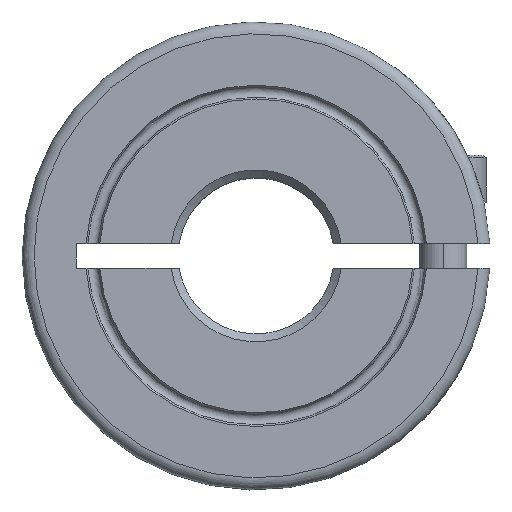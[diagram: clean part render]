
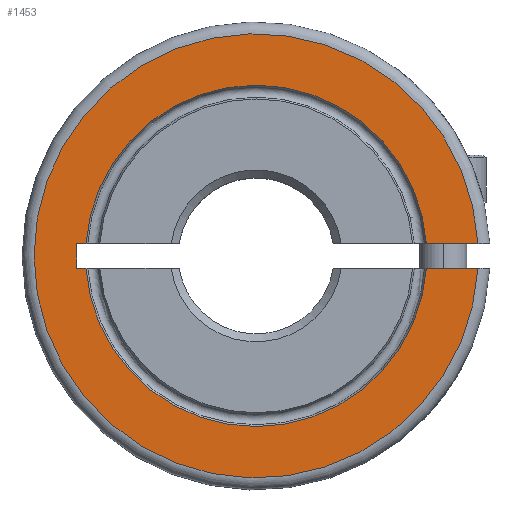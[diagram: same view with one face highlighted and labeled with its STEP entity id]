
A CAD part, top view. The second image highlights one B-rep face of the part: STEP entity #1453.
In plain terms, the highlighted planar face has unit normal (0, 0, 1).
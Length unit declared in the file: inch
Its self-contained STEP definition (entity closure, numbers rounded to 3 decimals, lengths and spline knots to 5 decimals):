
#23 = AXIS2_PLACEMENT_3D ( 'NONE', #544, #278, #284 ) ;
#65 = VERTEX_POINT ( 'NONE', #238 ) ;
#96 = ORIENTED_EDGE ( 'NONE', *, *, #736, .F. ) ;
#128 = DIRECTION ( 'NONE',  ( 0., -1., 0. ) ) ;
#181 = VECTOR ( 'NONE', #1747, 39.37008 ) ;
#207 = DIRECTION ( 'NONE',  ( 0., 0., 1. ) ) ;
#230 = EDGE_CURVE ( 'NONE', #1223, #744, #958, .T. ) ;
#231 = ORIENTED_EDGE ( 'NONE', *, *, #1219, .F. ) ;
#233 = VERTEX_POINT ( 'NONE', #1432 ) ;
#238 = CARTESIAN_POINT ( 'NONE',  ( -0.45276, -0.0315, 0.15748 ) ) ;
#245 = LINE ( 'NONE', #1574, #964 ) ;
#261 = PLANE ( 'NONE',  #391 ) ;
#268 = DIRECTION ( 'NONE',  ( 1., 0., 0. ) ) ;
#278 = DIRECTION ( 'NONE',  ( 0., 0., 1. ) ) ;
#284 = DIRECTION ( 'NONE',  ( 1., 0., 0. ) ) ;
#299 = DIRECTION ( 'NONE',  ( 0., 0., 1. ) ) ;
#311 = FACE_OUTER_BOUND ( 'NONE', #1176, .T. ) ;
#351 = CARTESIAN_POINT ( 'NONE',  ( 0.55967, 0.0315, 0.15748 ) ) ;
#363 = AXIS2_PLACEMENT_3D ( 'NONE', #549, #696, #268 ) ;
#391 = AXIS2_PLACEMENT_3D ( 'NONE', #729, #299, #1015 ) ;
#395 = DIRECTION ( 'NONE',  ( 1., 0., 0. ) ) ;
#399 = ORIENTED_EDGE ( 'NONE', *, *, #230, .T. ) ;
#437 = CARTESIAN_POINT ( 'NONE',  ( 0.59055, 0.0315, 0.15748 ) ) ;
#447 = ORIENTED_EDGE ( 'NONE', *, *, #994, .F. ) ;
#469 = CARTESIAN_POINT ( 'NONE',  ( -0.45276, 0.0315, 0.15748 ) ) ;
#544 = CARTESIAN_POINT ( 'NONE',  ( 0., 0., 0.15748 ) ) ;
#549 = CARTESIAN_POINT ( 'NONE',  ( 0., 0., 0.15748 ) ) ;
#601 = VECTOR ( 'NONE', #1324, 39.37008 ) ;
#613 = VERTEX_POINT ( 'NONE', #782 ) ;
#644 = CIRCLE ( 'NONE', #363, 0.43071 ) ;
#648 = LINE ( 'NONE', #1749, #601 ) ;
#655 = LINE ( 'NONE', #437, #1731 ) ;
#672 = CARTESIAN_POINT ( 'NONE',  ( 0.59055, 0.0315, 0.15748 ) ) ;
#696 = DIRECTION ( 'NONE',  ( 0., 0., 1. ) ) ;
#727 = AXIS2_PLACEMENT_3D ( 'NONE', #1234, #207, #1059 ) ;
#729 = CARTESIAN_POINT ( 'NONE',  ( 0., 0., 0.15748 ) ) ;
#736 = EDGE_CURVE ( 'NONE', #1223, #613, #1337, .T. ) ;
#744 = VERTEX_POINT ( 'NONE', #1146 ) ;
#782 = CARTESIAN_POINT ( 'NONE',  ( 0.42955, 0.0315, 0.15748 ) ) ;
#790 = ORIENTED_EDGE ( 'NONE', *, *, #1521, .F. ) ;
#825 = CARTESIAN_POINT ( 'NONE',  ( 0.59055, -0.0315, 0.15748 ) ) ;
#827 = EDGE_CURVE ( 'NONE', #1102, #1626, #655, .T. ) ;
#859 = LINE ( 'NONE', #825, #1586 ) ;
#864 = CARTESIAN_POINT ( 'NONE',  ( -0.42955, 0.0315, 0.15748 ) ) ;
#958 = CIRCLE ( 'NONE', #23, 0.56055 ) ;
#964 = VECTOR ( 'NONE', #128, 39.37008 ) ;
#979 = ORIENTED_EDGE ( 'NONE', *, *, #1013, .F. ) ;
#994 = EDGE_CURVE ( 'NONE', #1626, #65, #245, .T. ) ;
#1010 = CIRCLE ( 'NONE', #727, 0.43071 ) ;
#1013 = EDGE_CURVE ( 'NONE', #1474, #744, #859, .T. ) ;
#1015 = DIRECTION ( 'NONE',  ( 1., 0., 0. ) ) ;
#1059 = DIRECTION ( 'NONE',  ( 1., 0., 0. ) ) ;
#1071 = ORIENTED_EDGE ( 'NONE', *, *, #827, .F. ) ;
#1102 = VERTEX_POINT ( 'NONE', #864 ) ;
#1146 = CARTESIAN_POINT ( 'NONE',  ( 0.55967, -0.0315, 0.15748 ) ) ;
#1176 = EDGE_LOOP ( 'NONE', ( #96, #399, #979, #231, #790, #447, #1071, #1341 ) ) ;
#1219 = EDGE_CURVE ( 'NONE', #233, #1474, #1010, .T. ) ;
#1223 = VERTEX_POINT ( 'NONE', #351 ) ;
#1234 = CARTESIAN_POINT ( 'NONE',  ( 0., 0., 0.15748 ) ) ;
#1324 = DIRECTION ( 'NONE',  ( 1., 0., 0. ) ) ;
#1337 = LINE ( 'NONE', #672, #181 ) ;
#1341 = ORIENTED_EDGE ( 'NONE', *, *, #1713, .F. ) ;
#1432 = CARTESIAN_POINT ( 'NONE',  ( -0.42955, -0.0315, 0.15748 ) ) ;
#1453 = ADVANCED_FACE ( 'NONE', ( #311 ), #261, .T. ) ;
#1474 = VERTEX_POINT ( 'NONE', #1617 ) ;
#1495 = DIRECTION ( 'NONE',  ( -1., 0., 0. ) ) ;
#1521 = EDGE_CURVE ( 'NONE', #65, #233, #648, .T. ) ;
#1574 = CARTESIAN_POINT ( 'NONE',  ( -0.45276, 0.0315, 0.15748 ) ) ;
#1586 = VECTOR ( 'NONE', #395, 39.37008 ) ;
#1617 = CARTESIAN_POINT ( 'NONE',  ( 0.42955, -0.0315, 0.15748 ) ) ;
#1626 = VERTEX_POINT ( 'NONE', #469 ) ;
#1713 = EDGE_CURVE ( 'NONE', #613, #1102, #644, .T. ) ;
#1731 = VECTOR ( 'NONE', #1495, 39.37008 ) ;
#1747 = DIRECTION ( 'NONE',  ( -1., 0., 0. ) ) ;
#1749 = CARTESIAN_POINT ( 'NONE',  ( 0.59055, -0.0315, 0.15748 ) ) ;
